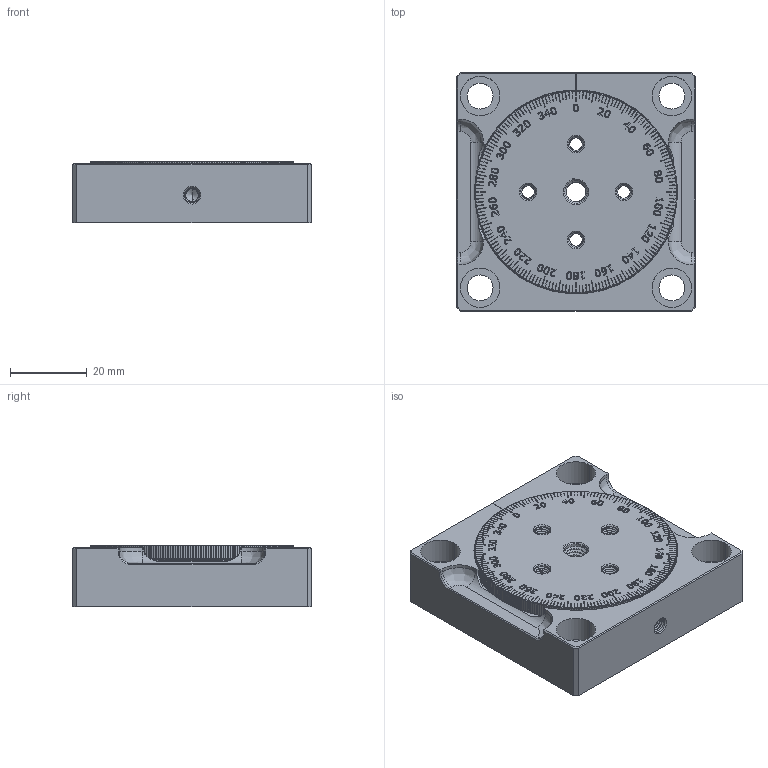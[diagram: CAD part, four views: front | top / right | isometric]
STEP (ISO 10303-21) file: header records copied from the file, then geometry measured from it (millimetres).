
FILE_DESCRIPTION((''),'2;1');
FILE_NAME('RP01_ASM','2021-11-17T',('daizhiwen'),(''),'CREO PARAMETRIC BY PTC INC, 2018360','CREO PARAMETRIC BY PTC INC, 2018360','');
FILE_SCHEMA(('CONFIG_CONTROL_DESIGN'));
Products named in the file (7): RP01_A1; RP01_A3; NTA2031-1-SOLID1; RP01_A2; M4X5_HS; AXLE_3X6_J; RP01_ASM
Assembly tree (7 placements, depth 2):
  RP01_ASM
    RP01_A1
    RP01_A3
    NTA2031-1-SOLID1  x2
    RP01_A2
    M4X5_HS
    AXLE_3X6_J
Bounding box: 62.23 x 62.23 x 16.15 mm (x, y, z)
Volume: 53035.3 mm3; surface area: 29556.3 mm2
Topology: 7 solids, 7 shells, 3424 faces, 8808 edges, 5850 vertices
Faces by surface type: cylinder 1486, plane 1256, extrusion 505, bspline 128, cone 47, torus 2
Entity records: 140323 total; most frequent: CARTESIAN_POINT 66025, ORIENTED_EDGE 16532, DIRECTION 12918, EDGE_CURVE 8266, VERTEX_POINT 5490, VECTOR 4632, AXIS2_PLACEMENT_3D 4143, LINE 4127
